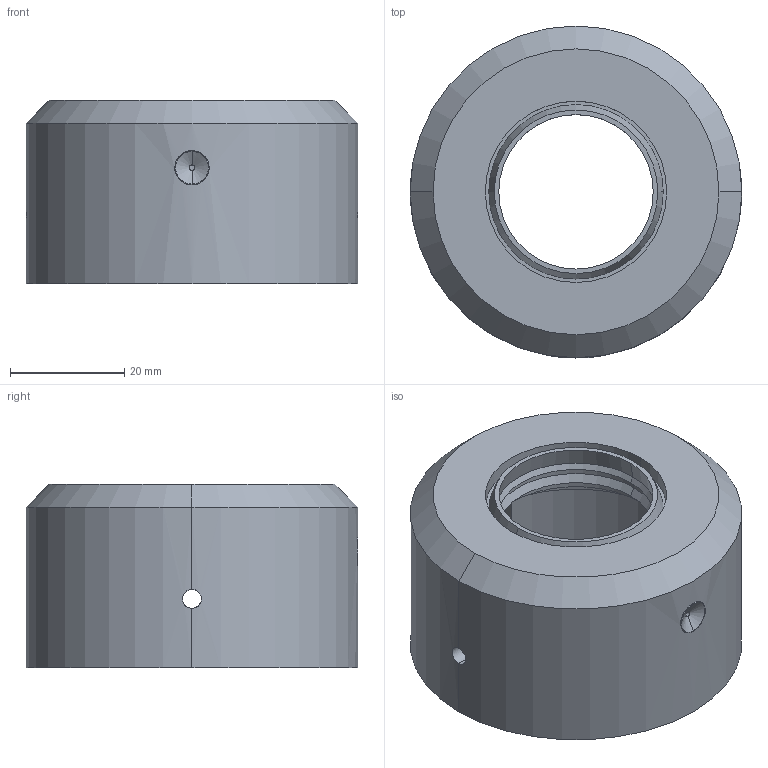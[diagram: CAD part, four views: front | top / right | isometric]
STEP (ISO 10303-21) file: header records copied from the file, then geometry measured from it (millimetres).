
FILE_DESCRIPTION (( 'STEP AP214' ), '1' );
FILE_NAME ('PA01-48!27-F.STEP', '2008-04-09T14:35:51', ( 'Ausderau' ), ( 'NTI AG' ), 'SwSTEP 2.0', 'SolidWorks 2005037', '' );
FILE_SCHEMA (( 'AUTOMOTIVE_DESIGN' ));
Length unit declared in the file: millimetre
Products named in the file (1): PA01-48!27-F
Bounding box: 58 x 58.03 x 32 mm (x, y, z)
Volume: 35871.5 mm3; surface area: 14499.6 mm2
Topology: 1 solids, 1 shells, 60 faces, 140 edges, 85 vertices
Faces by surface type: cylinder 30, plane 14, cone 14, torus 2
Entity records: 2330 total; most frequent: CARTESIAN_POINT 613, DIRECTION 311, ORIENTED_EDGE 280, EDGE_CURVE 140, AXIS2_PLACEMENT_3D 125, VERTEX_POINT 85, EDGE_LOOP 71, CIRCLE 64
